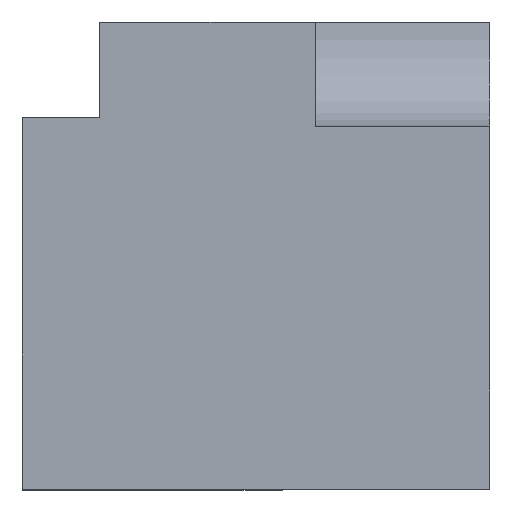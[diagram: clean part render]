
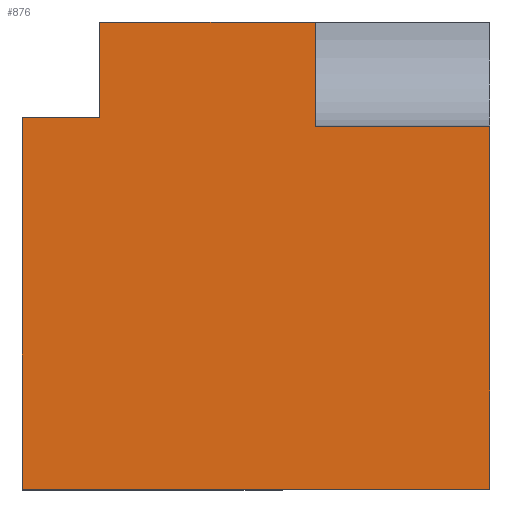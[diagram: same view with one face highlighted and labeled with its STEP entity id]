
A CAD part, top view. The second image highlights one B-rep face of the part: STEP entity #876.
In plain terms, the highlighted planar face has unit normal (0, 0, 1).
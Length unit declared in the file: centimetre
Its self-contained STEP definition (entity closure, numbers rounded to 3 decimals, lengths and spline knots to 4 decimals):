
#26 = LINE ( 'NONE', #566, #56 ) ;
#56 = VECTOR ( 'NONE', #1667, 100. ) ;
#128 = VECTOR ( 'NONE', #1416, 100. ) ;
#150 = CARTESIAN_POINT ( 'NONE',  ( 1000., 1000., 1000. ) ) ;
#166 = LINE ( 'NONE', #150, #1252 ) ;
#184 = EDGE_CURVE ( 'NONE', #1183, #824, #1774, .T. ) ;
#247 = LINE ( 'NONE', #786, #1734 ) ;
#272 = ORIENTED_EDGE ( 'NONE', *, *, #459, .F. ) ;
#276 = AXIS2_PLACEMENT_3D ( 'NONE', #1248, #1234, #536 ) ;
#348 = CARTESIAN_POINT ( 'NONE',  ( 1000., 776.3064, 1000. ) ) ;
#364 = LINE ( 'NONE', #1472, #1585 ) ;
#441 = VECTOR ( 'NONE', #836, 100. ) ;
#459 = EDGE_CURVE ( 'NONE', #1074, #1375, #1372, .T. ) ;
#536 = DIRECTION ( 'NONE',  ( 1., 0., 0. ) ) ;
#537 = DIRECTION ( 'NONE',  ( 1., 0., 0. ) ) ;
#552 = EDGE_CURVE ( 'NONE', #1127, #897, #1109, .T. ) ;
#566 = CARTESIAN_POINT ( 'NONE',  ( 0., 1000., 1000. ) ) ;
#597 = ORIENTED_EDGE ( 'NONE', *, *, #552, .T. ) ;
#600 = EDGE_CURVE ( 'NONE', #1143, #824, #166, .T. ) ;
#688 = CARTESIAN_POINT ( 'NONE',  ( 165.506, 1000., 1000. ) ) ;
#689 = PLANE ( 'NONE',  #276 ) ;
#714 = CARTESIAN_POINT ( 'NONE',  ( 626.8404, 776.3064, 1000. ) ) ;
#786 = CARTESIAN_POINT ( 'NONE',  ( 626.8404, 0., 1000. ) ) ;
#799 = ORIENTED_EDGE ( 'NONE', *, *, #184, .F. ) ;
#808 = EDGE_CURVE ( 'NONE', #1183, #1566, #247, .T. ) ;
#813 = VECTOR ( 'NONE', #1617, 100. ) ;
#819 = DIRECTION ( 'NONE',  ( 0., 1., 0. ) ) ;
#824 = VERTEX_POINT ( 'NONE', #348 ) ;
#836 = DIRECTION ( 'NONE',  ( 0., -1., 0. ) ) ;
#849 = ORIENTED_EDGE ( 'NONE', *, *, #808, .T. ) ;
#876 = ADVANCED_FACE ( 'NONE', ( #957 ), #689, .T. ) ;
#897 = VERTEX_POINT ( 'NONE', #1238 ) ;
#920 = DIRECTION ( 'NONE',  ( 1., 0., 0. ) ) ;
#957 = FACE_OUTER_BOUND ( 'NONE', #1288, .T. ) ;
#984 = ORIENTED_EDGE ( 'NONE', *, *, #600, .T. ) ;
#1008 = EDGE_CURVE ( 'NONE', #1127, #1074, #1776, .T. ) ;
#1074 = VERTEX_POINT ( 'NONE', #1440 ) ;
#1109 = LINE ( 'NONE', #1125, #441 ) ;
#1125 = CARTESIAN_POINT ( 'NONE',  ( 0., 1000., 1000. ) ) ;
#1127 = VERTEX_POINT ( 'NONE', #1451 ) ;
#1143 = VERTEX_POINT ( 'NONE', #1602 ) ;
#1183 = VERTEX_POINT ( 'NONE', #1373 ) ;
#1211 = ORIENTED_EDGE ( 'NONE', *, *, #1692, .T. ) ;
#1215 = DIRECTION ( 'NONE',  ( 0., 1., 0. ) ) ;
#1234 = DIRECTION ( 'NONE',  ( 0., 0., 1. ) ) ;
#1238 = CARTESIAN_POINT ( 'NONE',  ( 0., 0., 1000. ) ) ;
#1248 = CARTESIAN_POINT ( 'NONE',  ( 0., 0., 1000. ) ) ;
#1252 = VECTOR ( 'NONE', #819, 100. ) ;
#1265 = CARTESIAN_POINT ( 'NONE',  ( 0., 795.2049, 1000. ) ) ;
#1288 = EDGE_LOOP ( 'NONE', ( #799, #849, #1343, #272, #1525, #597, #1211, #984 ) ) ;
#1296 = CARTESIAN_POINT ( 'NONE',  ( 626.8404, 1000., 1000. ) ) ;
#1310 = VECTOR ( 'NONE', #537, 100. ) ;
#1343 = ORIENTED_EDGE ( 'NONE', *, *, #1755, .T. ) ;
#1372 = LINE ( 'NONE', #1471, #813 ) ;
#1373 = CARTESIAN_POINT ( 'NONE',  ( 626.8404, 776.3064, 1000. ) ) ;
#1375 = VERTEX_POINT ( 'NONE', #688 ) ;
#1416 = DIRECTION ( 'NONE',  ( 1., 0., 0. ) ) ;
#1440 = CARTESIAN_POINT ( 'NONE',  ( 165.506, 795.2049, 1000. ) ) ;
#1451 = CARTESIAN_POINT ( 'NONE',  ( 0., 795.2049, 1000. ) ) ;
#1471 = CARTESIAN_POINT ( 'NONE',  ( 165.506, 795.2049, 1000. ) ) ;
#1472 = CARTESIAN_POINT ( 'NONE',  ( 0., 0., 1000. ) ) ;
#1525 = ORIENTED_EDGE ( 'NONE', *, *, #1008, .F. ) ;
#1566 = VERTEX_POINT ( 'NONE', #1296 ) ;
#1585 = VECTOR ( 'NONE', #920, 100. ) ;
#1602 = CARTESIAN_POINT ( 'NONE',  ( 1000., 0., 1000. ) ) ;
#1617 = DIRECTION ( 'NONE',  ( 0., 1., 0. ) ) ;
#1667 = DIRECTION ( 'NONE',  ( -1., 0., 0. ) ) ;
#1692 = EDGE_CURVE ( 'NONE', #897, #1143, #364, .T. ) ;
#1734 = VECTOR ( 'NONE', #1215, 100. ) ;
#1755 = EDGE_CURVE ( 'NONE', #1566, #1375, #26, .T. ) ;
#1774 = LINE ( 'NONE', #714, #1310 ) ;
#1776 = LINE ( 'NONE', #1265, #128 ) ;
